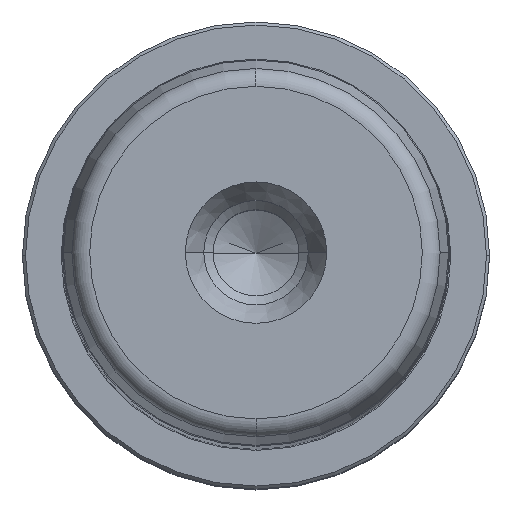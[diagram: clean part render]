
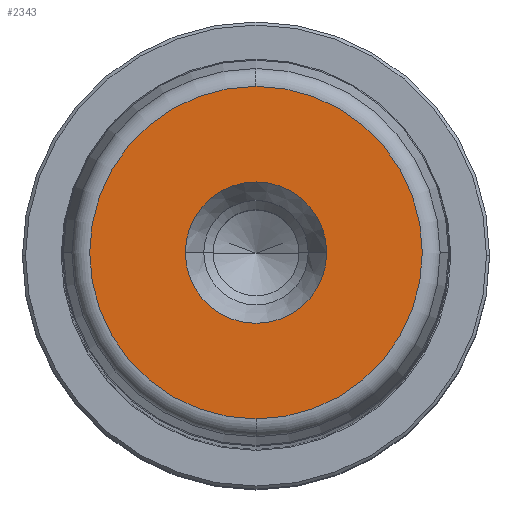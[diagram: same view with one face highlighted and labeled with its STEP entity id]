
A CAD part, top view. The second image highlights one B-rep face of the part: STEP entity #2343.
In plain terms, the highlighted planar face has unit normal (0, 0, 1).
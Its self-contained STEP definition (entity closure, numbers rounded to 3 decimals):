
#431=CARTESIAN_POINT('',(11.5,0.,280.0));
#432=VERTEX_POINT('',#431);
#439=CARTESIAN_POINT('',(-11.5,0.,280.0));
#440=VERTEX_POINT('',#439);
#441=CARTESIAN_POINT('',(0.0,0.,280.0));
#442=DIRECTION('',(0.0,0.0,1.0));
#443=DIRECTION('',(1.0,0.0,0.0));
#444=AXIS2_PLACEMENT_3D('',#441,#442,#443);
#445=CIRCLE('',#444,11.5);
#446=EDGE_CURVE('',#432,#440,#445,.T.);
#463=CARTESIAN_POINT('',(0.0,-27.054,280.));
#464=VERTEX_POINT('',#463);
#474=CARTESIAN_POINT('',(0.,27.054,280.));
#475=VERTEX_POINT('',#474);
#476=CARTESIAN_POINT('',(0.0,0.,280.));
#477=DIRECTION('',(0.0,0.0,1.0));
#478=DIRECTION('',(1.0,0.0,0.0));
#479=AXIS2_PLACEMENT_3D('',#476,#477,#478);
#480=CIRCLE('',#479,27.054);
#481=EDGE_CURVE('',#475,#464,#480,.T.);
#2304=CARTESIAN_POINT('',(27.054,0.,280.));
#2305=VERTEX_POINT('',#2304);
#2306=CARTESIAN_POINT('',(0.0,0.,280.));
#2307=DIRECTION('',(0.0,0.0,1.0));
#2308=DIRECTION('',(1.0,0.0,0.0));
#2309=AXIS2_PLACEMENT_3D('',#2306,#2307,#2308);
#2310=CIRCLE('',#2309,27.054);
#2311=EDGE_CURVE('',#2305,#475,#2310,.T.);
#2313=CARTESIAN_POINT('',(0.0,0.,280.));
#2314=DIRECTION('',(0.0,0.0,1.0));
#2315=DIRECTION('',(1.0,0.0,0.0));
#2316=AXIS2_PLACEMENT_3D('',#2313,#2314,#2315);
#2317=CIRCLE('',#2316,27.054);
#2318=EDGE_CURVE('',#464,#2305,#2317,.T.);
#2323=CARTESIAN_POINT('',(19.277,0.,280.0));
#2324=DIRECTION('',(0.0,0.0,1.0));
#2325=DIRECTION('',(0.0,-1.0,0.0));
#2326=AXIS2_PLACEMENT_3D('',#2323,#2324,#2325);
#2327=PLANE('',#2326);
#2328=ORIENTED_EDGE('',*,*,#2311,.T.);
#2329=ORIENTED_EDGE('',*,*,#481,.T.);
#2330=ORIENTED_EDGE('',*,*,#2318,.T.);
#2331=EDGE_LOOP('',(#2328,#2329,#2330));
#2332=FACE_OUTER_BOUND('',#2331,.T.);
#2333=ORIENTED_EDGE('',*,*,#446,.F.);
#2334=CARTESIAN_POINT('',(0.0,0.,280.0));
#2335=DIRECTION('',(0.0,0.0,1.0));
#2336=DIRECTION('',(1.0,0.0,0.0));
#2337=AXIS2_PLACEMENT_3D('',#2334,#2335,#2336);
#2338=CIRCLE('',#2337,11.5);
#2339=EDGE_CURVE('',#440,#432,#2338,.T.);
#2340=ORIENTED_EDGE('',*,*,#2339,.F.);
#2341=EDGE_LOOP('',(#2333,#2340));
#2342=FACE_BOUND('',#2341,.T.);
#2343=ADVANCED_FACE('',(#2332,#2342),#2327,.T.);
